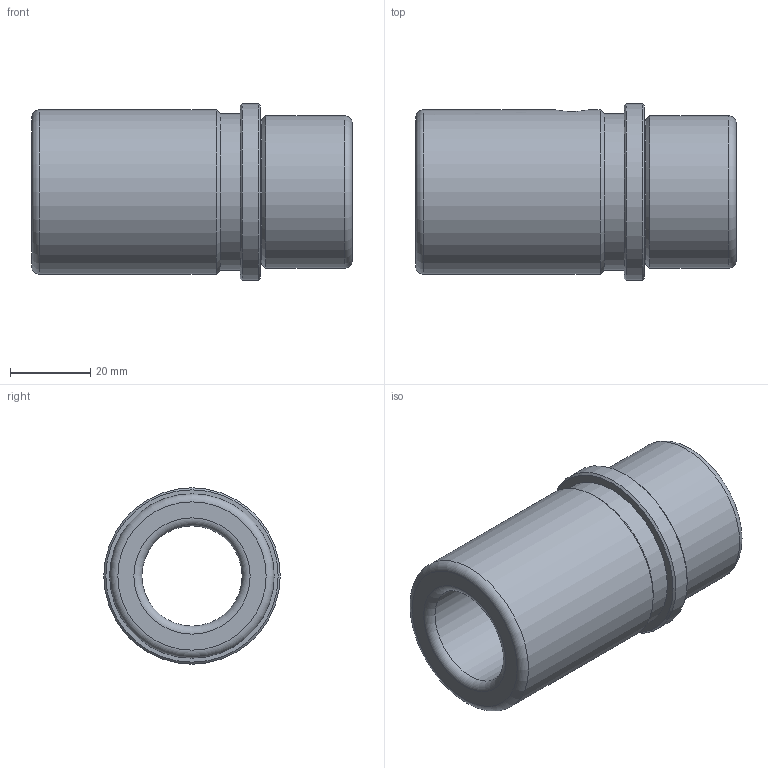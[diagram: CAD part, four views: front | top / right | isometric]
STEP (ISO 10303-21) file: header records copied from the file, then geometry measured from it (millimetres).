
FILE_DESCRIPTION( ( 'STEP AP214' ), '1' );
FILE_NAME( 'p:/temp/worker_24/temp/exporttempdir_2948_366_ooVX1/format_2/WZ - 4055 25 x 80.stp', '2020-12-04T19:46:29', ( 'License CC BY-ND 4.0' ), ( 'CADENAS' ), ' ', 'PARTsolutions', ' ' );
FILE_SCHEMA( ( 'AUTOMOTIVE_DESIGN { 1 0 10303 214 1 1 1 1 }' ) );
Length unit declared in the file: millimetre
Products named in the file (1): _WZ - 4055 25 x 80
Bounding box: 80 x 44 x 44 mm (x, y, z)
Volume: 61217.4 mm3; surface area: 18617.5 mm2
Topology: 1 solids, 1 shells, 21 faces, 38 edges, 22 vertices
Faces by surface type: cylinder 7, cone 5, plane 5, torus 4
Full cylindrical faces by diameter (mm): 8.376 x1, 25 x1, 36 x1, 38 x1, 39 x1, 41 x1, 44 x1
Entity records: 748 total; most frequent: CARTESIAN_POINT 194, DIRECTION 84, EDGE_LOOP 44, ORIENTED_EDGE 44, AXIS2_PLACEMENT_3D 42, FACE_OUTER_BOUND 32, EDGE_CURVE 22, VERTEX_POINT 22
